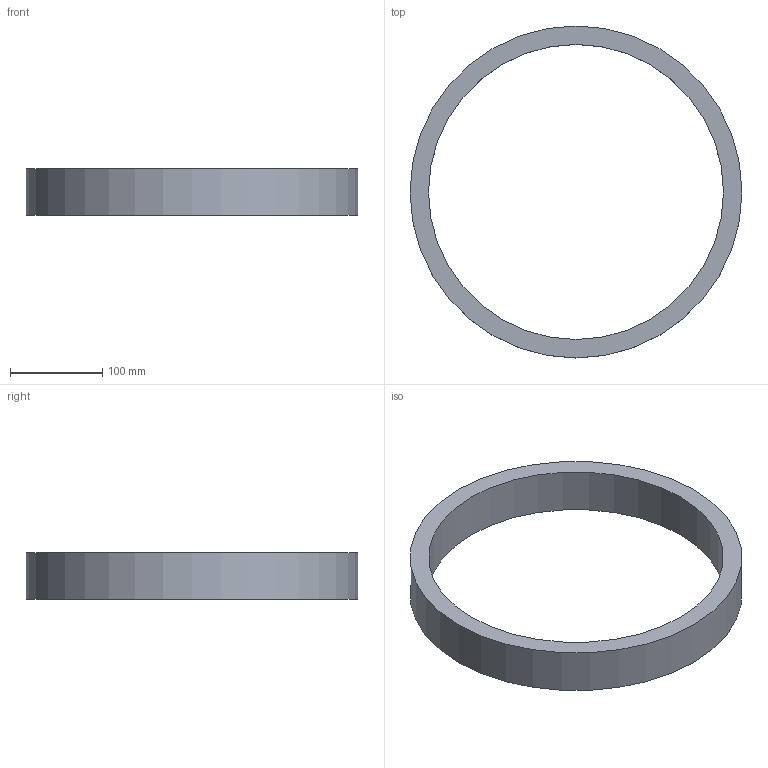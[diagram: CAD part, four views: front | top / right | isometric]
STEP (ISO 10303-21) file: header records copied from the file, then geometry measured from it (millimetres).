
FILE_DESCRIPTION(('Open CASCADE Model'),'2;1');
FILE_NAME('Open CASCADE Shape Model','2026-09-19T16:36:14',('Author'),( 'Open CASCADE'),'Open CASCADE STEP processor 7.8','Open CASCADE 7.8' ,'Unknown');
FILE_SCHEMA(('AUTOMOTIVE_DESIGN { 1 0 10303 214 1 1 1 1 }'));
Length unit declared in the file: millimetre
Products named in the file (1): Open CASCADE STEP translator 7.8 7
Bounding box: 360 x 360 x 50 mm (x, y, z)
Volume: 1068141.5 mm3; surface area: 149539.8 mm2
Topology: 1 solids, 1 shells, 4 faces, 6 edges, 4 vertices
Faces by surface type: cylinder 2, plane 2
Full cylindrical faces by diameter (mm): 320 x1, 360 x1
Entity records: 186 total; most frequent: DIRECTION 32, CARTESIAN_POINT 27, ORIENTED_EDGE 12, PCURVE 12, DEFINITIONAL_REPRESENTATION 12, LINE 10, VECTOR 10, AXIS2_PLACEMENT_3D 9
